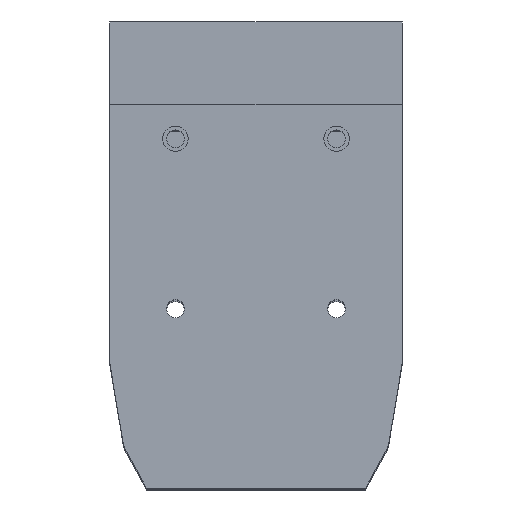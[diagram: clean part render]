
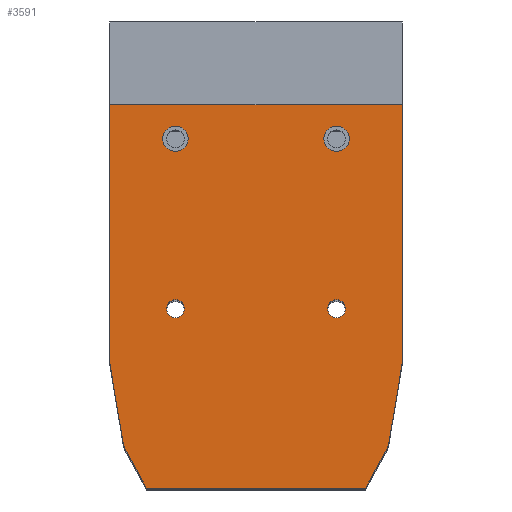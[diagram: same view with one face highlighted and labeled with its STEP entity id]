
A CAD part, top view. The second image highlights one B-rep face of the part: STEP entity #3591.
In plain terms, the highlighted planar face has unit normal (0, 0, 1).
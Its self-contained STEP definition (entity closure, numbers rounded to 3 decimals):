
#468=DIRECTION('',(0.,-1.,0.));
#469=VECTOR('',#468,60.9);
#470=CARTESIAN_POINT('',(-34.5,6.05,128.8));
#471=LINE('',#470,#469);
#472=DIRECTION('',(-1.,0.,0.));
#473=VECTOR('',#472,69.);
#474=CARTESIAN_POINT('',(34.5,6.05,128.8));
#475=LINE('',#474,#473);
#476=DIRECTION('',(0.,1.,0.));
#477=VECTOR('',#476,60.9);
#478=CARTESIAN_POINT('',(34.5,-54.85,128.8));
#479=LINE('',#478,#477);
#480=DIRECTION('',(0.165,0.986,0.));
#481=VECTOR('',#480,19.173);
#482=CARTESIAN_POINT('',(31.336,-73.76,128.8));
#483=LINE('',#482,#481);
#484=CARTESIAN_POINT('',(26.638,-72.974,128.8));
#485=DIRECTION('',(0.,0.,1.));
#486=DIRECTION('',(0.878,-0.478,0.));
#487=AXIS2_PLACEMENT_3D('',#484,#485,#486);
#489=DIRECTION('',(0.478,0.878,0.));
#490=VECTOR('',#489,10.386);
#491=CARTESIAN_POINT('',(25.852,-84.373,128.8));
#492=LINE('',#491,#490);
#493=DIRECTION('',(1.,0.,0.));
#494=VECTOR('',#493,51.704);
#495=CARTESIAN_POINT('',(-25.852,-84.373,128.8));
#496=LINE('',#495,#494);
#497=DIRECTION('',(0.478,-0.878,0.));
#498=VECTOR('',#497,10.386);
#499=CARTESIAN_POINT('',(-30.821,-75.253,128.8));
#500=LINE('',#499,#498);
#501=CARTESIAN_POINT('',(-26.638,-72.974,128.8));
#502=DIRECTION('',(0.,0.,1.));
#503=DIRECTION('',(-0.986,-0.165,0.));
#504=AXIS2_PLACEMENT_3D('',#501,#502,#503);
#506=DIRECTION('',(0.165,-0.986,0.));
#507=VECTOR('',#506,19.173);
#508=CARTESIAN_POINT('',(-34.5,-54.85,128.8));
#509=LINE('',#508,#507);
#510=CARTESIAN_POINT('',(-19.,-1.95,128.8));
#511=DIRECTION('',(0.,0.,1.));
#512=DIRECTION('',(-1.,0.,0.));
#513=AXIS2_PLACEMENT_3D('',#510,#511,#512);
#515=CARTESIAN_POINT('',(-19.,-1.95,128.8));
#516=DIRECTION('',(0.,0.,1.));
#517=DIRECTION('',(1.,0.,0.));
#518=AXIS2_PLACEMENT_3D('',#515,#516,#517);
#520=CARTESIAN_POINT('',(19.,-1.95,128.8));
#521=DIRECTION('',(0.,0.,1.));
#522=DIRECTION('',(-1.,0.,0.));
#523=AXIS2_PLACEMENT_3D('',#520,#521,#522);
#525=CARTESIAN_POINT('',(19.,-1.95,128.8));
#526=DIRECTION('',(0.,0.,1.));
#527=DIRECTION('',(1.,0.,0.));
#528=AXIS2_PLACEMENT_3D('',#525,#526,#527);
#530=CARTESIAN_POINT('',(-19.,-42.05,128.8));
#531=DIRECTION('',(0.,0.,1.));
#532=DIRECTION('',(1.,0.,0.));
#533=AXIS2_PLACEMENT_3D('',#530,#531,#532);
#535=CARTESIAN_POINT('',(-19.,-42.05,128.8));
#536=DIRECTION('',(0.,0.,1.));
#537=DIRECTION('',(-1.,0.,0.));
#538=AXIS2_PLACEMENT_3D('',#535,#536,#537);
#540=CARTESIAN_POINT('',(19.,-42.05,128.8));
#541=DIRECTION('',(0.,0.,1.));
#542=DIRECTION('',(1.,0.,0.));
#543=AXIS2_PLACEMENT_3D('',#540,#541,#542);
#545=CARTESIAN_POINT('',(19.,-42.05,128.8));
#546=DIRECTION('',(0.,0.,1.));
#547=DIRECTION('',(-1.,0.,0.));
#548=AXIS2_PLACEMENT_3D('',#545,#546,#547);
#2566=CARTESIAN_POINT('',(34.5,6.05,128.8));
#2567=CARTESIAN_POINT('',(-34.5,6.05,128.8));
#2568=VERTEX_POINT('',#2566);
#2569=VERTEX_POINT('',#2567);
#2618=CARTESIAN_POINT('',(-34.5,-54.85,128.8));
#2619=VERTEX_POINT('',#2618);
#2620=CARTESIAN_POINT('',(-31.336,-73.76,128.8));
#2621=VERTEX_POINT('',#2620);
#2622=CARTESIAN_POINT('',(-30.821,-75.253,128.8));
#2623=VERTEX_POINT('',#2622);
#2624=CARTESIAN_POINT('',(-25.852,-84.373,128.8));
#2625=VERTEX_POINT('',#2624);
#2626=CARTESIAN_POINT('',(25.852,-84.373,128.8));
#2627=VERTEX_POINT('',#2626);
#2628=CARTESIAN_POINT('',(30.821,-75.253,128.8));
#2629=VERTEX_POINT('',#2628);
#2630=CARTESIAN_POINT('',(31.336,-73.76,128.8));
#2631=VERTEX_POINT('',#2630);
#2632=CARTESIAN_POINT('',(34.5,-54.85,128.8));
#2633=VERTEX_POINT('',#2632);
#2684=CARTESIAN_POINT('',(-22.,-1.95,128.8));
#2685=VERTEX_POINT('',#2684);
#2688=CARTESIAN_POINT('',(-16.,-1.95,128.8));
#2689=VERTEX_POINT('',#2688);
#2706=CARTESIAN_POINT('',(-16.9,-42.05,128.8));
#2707=CARTESIAN_POINT('',(-21.1,-42.05,128.8));
#2708=VERTEX_POINT('',#2706);
#2709=VERTEX_POINT('',#2707);
#2710=CARTESIAN_POINT('',(21.1,-42.05,128.8));
#2711=CARTESIAN_POINT('',(16.9,-42.05,128.8));
#2712=VERTEX_POINT('',#2710);
#2713=VERTEX_POINT('',#2711);
#2860=CARTESIAN_POINT('',(16.,-1.95,128.8));
#2861=VERTEX_POINT('',#2860);
#2864=CARTESIAN_POINT('',(22.,-1.95,128.8));
#2865=VERTEX_POINT('',#2864);
#3550=CARTESIAN_POINT('',(-34.5,6.05,128.8));
#3551=DIRECTION('',(0.,0.,1.));
#3552=DIRECTION('',(-1.,0.,0.));
#3553=AXIS2_PLACEMENT_3D('',#3550,#3551,#3552);
#3554=PLANE('',#3553);
#3555=ORIENTED_EDGE('',*,*,#2938,.F.);
#3557=ORIENTED_EDGE('',*,*,#3556,.F.);
#3558=ORIENTED_EDGE('',*,*,#3060,.F.);
#3559=ORIENTED_EDGE('',*,*,#3043,.F.);
#3560=ORIENTED_EDGE('',*,*,#3028,.F.);
#3561=ORIENTED_EDGE('',*,*,#3013,.F.);
#3562=ORIENTED_EDGE('',*,*,#2998,.F.);
#3563=ORIENTED_EDGE('',*,*,#2983,.F.);
#3564=ORIENTED_EDGE('',*,*,#2968,.F.);
#3565=ORIENTED_EDGE('',*,*,#2953,.F.);
#3566=EDGE_LOOP('',(#3555,#3557,#3558,#3559,#3560,#3561,#3562,#3563,#3564,
#3565));
#3567=FACE_OUTER_BOUND('',#3566,.F.);
#3569=ORIENTED_EDGE('',*,*,#3568,.T.);
#3571=ORIENTED_EDGE('',*,*,#3570,.T.);
#3572=EDGE_LOOP('',(#3569,#3571));
#3573=FACE_BOUND('',#3572,.F.);
#3575=ORIENTED_EDGE('',*,*,#3574,.T.);
#3577=ORIENTED_EDGE('',*,*,#3576,.T.);
#3578=EDGE_LOOP('',(#3575,#3577));
#3579=FACE_BOUND('',#3578,.F.);
#3580=ORIENTED_EDGE('',*,*,#3540,.T.);
#3582=ORIENTED_EDGE('',*,*,#3581,.T.);
#3583=EDGE_LOOP('',(#3580,#3582));
#3584=FACE_BOUND('',#3583,.F.);
#3586=ORIENTED_EDGE('',*,*,#3585,.T.);
#3588=ORIENTED_EDGE('',*,*,#3587,.T.);
#3589=EDGE_LOOP('',(#3586,#3588));
#3590=FACE_BOUND('',#3589,.F.);
#3591=ADVANCED_FACE('',(#3567,#3573,#3579,#3584,#3590),#3554,.T.);
#488=CIRCLE('',#487,4.763);
#505=CIRCLE('',#504,4.763);
#514=CIRCLE('',#513,3.);
#519=CIRCLE('',#518,3.);
#524=CIRCLE('',#523,3.);
#529=CIRCLE('',#528,3.);
#534=CIRCLE('',#533,2.1);
#539=CIRCLE('',#538,2.1);
#544=CIRCLE('',#543,2.1);
#549=CIRCLE('',#548,2.1);
#2938=EDGE_CURVE('',#2569,#2619,#471,.T.);
#2953=EDGE_CURVE('',#2619,#2621,#509,.T.);
#2968=EDGE_CURVE('',#2621,#2623,#505,.T.);
#2983=EDGE_CURVE('',#2623,#2625,#500,.T.);
#2998=EDGE_CURVE('',#2625,#2627,#496,.T.);
#3013=EDGE_CURVE('',#2627,#2629,#492,.T.);
#3028=EDGE_CURVE('',#2629,#2631,#488,.T.);
#3043=EDGE_CURVE('',#2631,#2633,#483,.T.);
#3060=EDGE_CURVE('',#2633,#2568,#479,.T.);
#3540=EDGE_CURVE('',#2708,#2709,#534,.T.);
#3556=EDGE_CURVE('',#2568,#2569,#475,.T.);
#3568=EDGE_CURVE('',#2685,#2689,#514,.T.);
#3570=EDGE_CURVE('',#2689,#2685,#519,.T.);
#3574=EDGE_CURVE('',#2861,#2865,#524,.T.);
#3576=EDGE_CURVE('',#2865,#2861,#529,.T.);
#3581=EDGE_CURVE('',#2709,#2708,#539,.T.);
#3585=EDGE_CURVE('',#2712,#2713,#544,.T.);
#3587=EDGE_CURVE('',#2713,#2712,#549,.T.);
